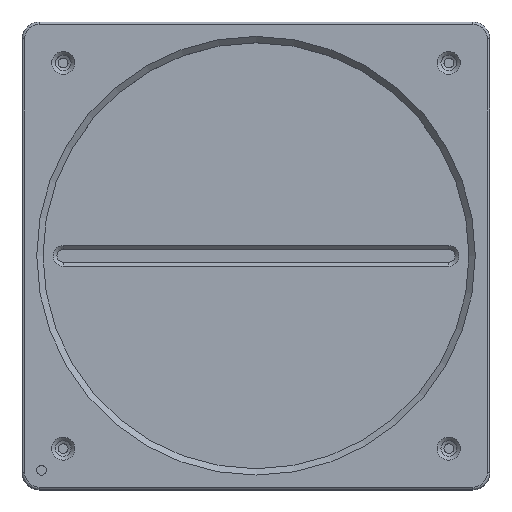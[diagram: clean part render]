
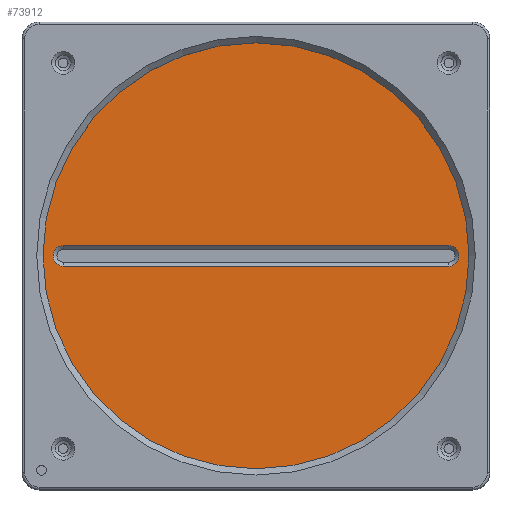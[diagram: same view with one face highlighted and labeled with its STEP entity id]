
A CAD part, top view. The second image highlights one B-rep face of the part: STEP entity #73912.
In plain terms, the highlighted planar face has unit normal (0, 0, 1).
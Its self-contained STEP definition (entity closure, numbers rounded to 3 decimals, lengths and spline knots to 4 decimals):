
#2763=FACE_BOUND('',#9035,.T.);
#3498=CIRCLE('',#77984,0.215);
#3499=CIRCLE('',#77987,0.215);
#3500=CIRCLE('',#77989,4.55);
#5060=FACE_OUTER_BOUND('',#9034,.T.);
#9034=EDGE_LOOP('',(#49546));
#9035=EDGE_LOOP('',(#49547,#49548,#49549,#49550));
#13955=LINE('',#102948,#21884);
#13959=LINE('',#102957,#21888);
#21884=VECTOR('',#84185,7.99);
#21888=VECTOR('',#84195,7.99);
#29738=VERTEX_POINT('',#102945);
#29739=VERTEX_POINT('',#102947);
#29740=VERTEX_POINT('',#102951);
#29741=VERTEX_POINT('',#102955);
#29742=VERTEX_POINT('',#102961);
#37311=EDGE_CURVE('',#29738,#29739,#13955,.T.);
#37314=EDGE_CURVE('',#29739,#29740,#3498,.T.);
#37316=EDGE_CURVE('',#29740,#29741,#13959,.T.);
#37317=EDGE_CURVE('',#29741,#29738,#3499,.T.);
#37318=EDGE_CURVE('',#29742,#29742,#3500,.T.);
#49546=ORIENTED_EDGE('',*,*,#37318,.F.);
#49547=ORIENTED_EDGE('',*,*,#37311,.F.);
#49548=ORIENTED_EDGE('',*,*,#37317,.F.);
#49549=ORIENTED_EDGE('',*,*,#37316,.F.);
#49550=ORIENTED_EDGE('',*,*,#37314,.F.);
#67039=PLANE('',#77988);
#73912=ADVANCED_FACE('',(#5060,#2763),#67039,.T.);
#77984=AXIS2_PLACEMENT_3D('',#102953,#84190,#84191);
#77987=AXIS2_PLACEMENT_3D('',#102959,#84198,#84199);
#77988=AXIS2_PLACEMENT_3D('',#102960,#84200,#84201);
#77989=AXIS2_PLACEMENT_3D('',#102962,#84202,#84203);
#84185=DIRECTION('',(1.,0.,0.));
#84190=DIRECTION('center_axis',(0.,0.,
1.));
#84191=DIRECTION('ref_axis',(1.,0.,0.));
#84195=DIRECTION('',(-1.,0.,0.));
#84198=DIRECTION('center_axis',(0.,0.,
1.));
#84199=DIRECTION('ref_axis',(-1.,0.,0.));
#84200=DIRECTION('center_axis',(0.,0.,
1.));
#84201=DIRECTION('ref_axis',(1.,0.,0.));
#84202=DIRECTION('center_axis',(0.,0.,
-1.));
#84203=DIRECTION('ref_axis',(-1.,0.,0.));
#102945=CARTESIAN_POINT('',(-3.995,-0.215,0.5167));
#102947=CARTESIAN_POINT('',(3.995,-0.215,0.5167));
#102948=CARTESIAN_POINT('',(-1.9975,-0.215,0.5167));
#102951=CARTESIAN_POINT('',(3.995,0.215,0.5167));
#102953=CARTESIAN_POINT('Origin',(3.995,0.,0.5167));
#102955=CARTESIAN_POINT('',(-3.995,0.215,0.5167));
#102957=CARTESIAN_POINT('',(1.9975,0.215,0.5167));
#102959=CARTESIAN_POINT('Origin',(-3.995,0.,0.5167));
#102960=CARTESIAN_POINT('Origin',(0.,0.,
0.5167));
#102961=CARTESIAN_POINT('',(4.55,0.,0.5167));
#102962=CARTESIAN_POINT('Origin',(0.,0.,
0.5167));
